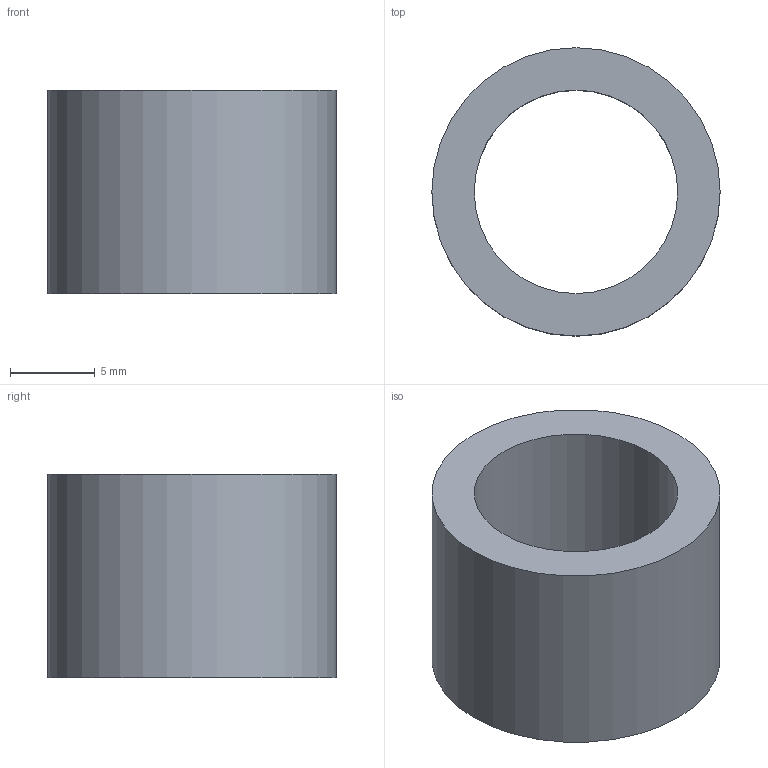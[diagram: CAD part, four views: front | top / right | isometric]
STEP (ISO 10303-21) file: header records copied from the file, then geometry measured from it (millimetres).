
FILE_DESCRIPTION( ( 'Unknown' ), '1' );
FILE_NAME( 'F:/navkite transat/construction/2016/3D ET ASSEMBLAGES/desal/DES 13.stp', 'Unknown', ( 'GMA' ), ( 'Unknown' ), 'XStep 1.0', 'Unknown', ' ' );
FILE_SCHEMA( ( 'automotive_design' ) );
Length unit declared in the file: millimetre
Products named in the file (1): 1
Bounding box: 17 x 17 x 12 mm (x, y, z)
Volume: 1366.6 mm3; surface area: 1321 mm2
Topology: 1 solids, 1 shells, 4 faces, 6 edges, 4 vertices
Faces by surface type: cylinder 2, plane 2
Full cylindrical faces by diameter (mm): 12 x1, 17 x1
Entity records: 136 total; most frequent: DIRECTION 18, CARTESIAN_POINT 13, AXIS2_PLACEMENT_3D 9, EDGE_LOOP 8, ORIENTED_EDGE 8, FACE_OUTER_BOUND 6, STYLED_ITEM 4, PRESENTATION_STYLE_ASSIGNMENT 4
